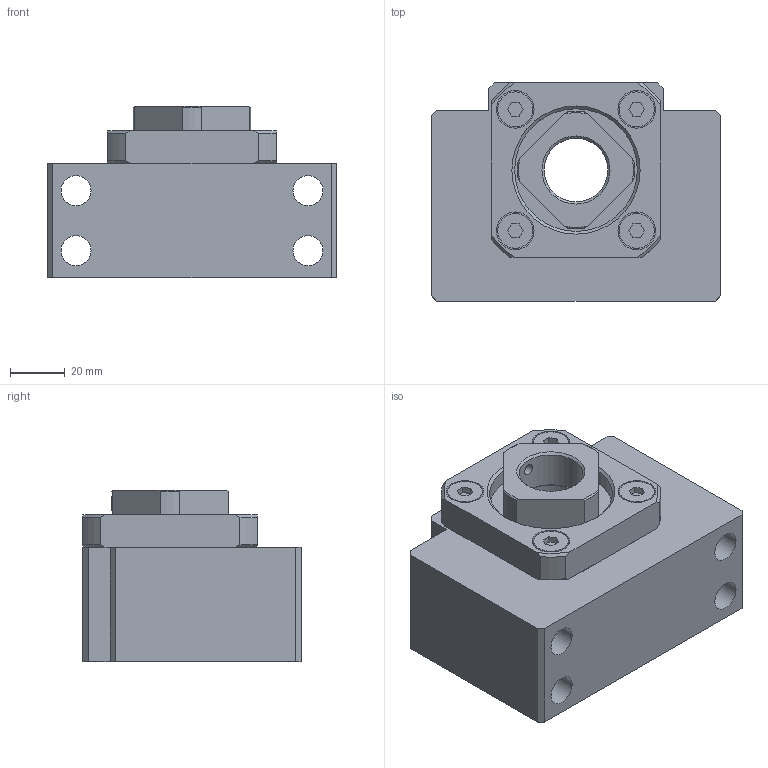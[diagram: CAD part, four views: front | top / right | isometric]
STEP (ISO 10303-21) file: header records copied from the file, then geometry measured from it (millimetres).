
FILE_DESCRIPTION(/* description */ ('STEP AP203'),/* implementation_level */ '2;1');
FILE_NAME(/* name */ 'BK25Yes',/* time_stamp */ '2025-06-10T06:31:19+02:00',/* author */ ('License CC BY-ND 4.0'),/* organization */ ('CADENAS'),/* preprocessor_version */ 'ST-DEVELOPER v19.3',/* originating_system */ 'PARTsolutions',/* authorisation */ ' ');
FILE_SCHEMA (('CONFIG_CONTROL_DESIGN'));
Length unit declared in the file: millimetre
Products named in the file (4): BK25Yes; BK 25; BK 25collar; RN 25
Assembly tree (4 placements, depth 2):
  BK25Yes
    BK 25
    BK 25collar  x2
    RN 25
Bounding box: 106 x 80 x 63 mm (x, y, z)
Volume: 327729.9 mm3; surface area: 70862.8 mm2
Topology: 4 solids, 4 shells, 153 faces, 369 edges, 246 vertices
Faces by surface type: plane 94, cylinder 38, cone 21
Full cylindrical faces by diameter (mm): 4.134 x1, 5 x1, 11 x4, 12.8 x4, 13.8 x4, 17.5 x4, 23.376 x1, 25 x3, 31.3 x4, 33 x1, 45 x2, 45.1 x1
Entity records: 4327 total; most frequent: CARTESIAN_POINT 848, DIRECTION 690, ORIENTED_EDGE 642, EDGE_CURVE 321, AXIS2_PLACEMENT_3D 257, VERTEX_POINT 233, EDGE_LOOP 218, FACE_BOUND 218
